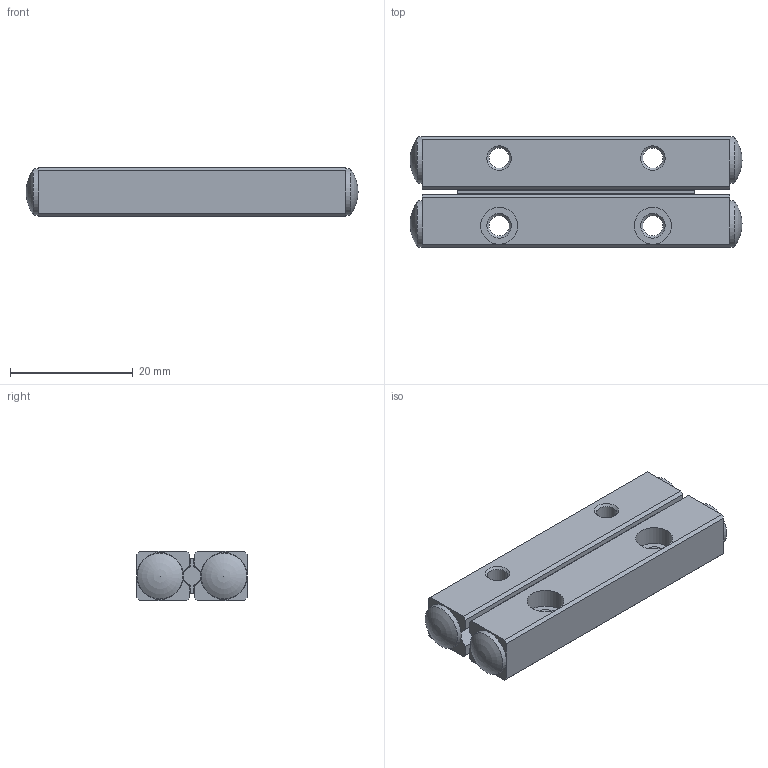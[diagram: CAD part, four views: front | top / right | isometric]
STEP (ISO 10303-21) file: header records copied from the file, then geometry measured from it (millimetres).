
FILE_DESCRIPTION(/* description */ ('STEP AP214'),/* implementation_level */ '2;1');
FILE_NAME(/* name */ 'VRG3M-50-Hx8Z (0)',/* time_stamp */ '2024-09-19T10:08:36+02:00',/* author */ ('License CC BY-ND 4.0'),/* organization */ ('CADENAS'),/* preprocessor_version */ 'ST-DEVELOPER v19.3',/* originating_system */ 'PARTsolutions',/* authorisation */ ' ');
FILE_SCHEMA (('AUTOMOTIVE_DESIGN {1 0 10303 214 3 1 1}'));
Length unit declared in the file: millimetre
Products named in the file (4): VRG3M-50-Hx8Z (0); VRG3M-50x8Z R1; VRG3M-50x8Z8C1; VRG3M-50x8Z R2
Assembly tree (3 placements, depth 2):
  VRG3M-50-Hx8Z (0)
    VRG3M-50x8Z R1
    VRG3M-50x8Z8C1
    VRG3M-50x8Z R2
Bounding box: 54 x 18 x 8 mm (x, y, z)
Volume: 6587 mm3; surface area: 4717.3 mm2
Topology: 3 solids, 3 shells, 218 faces, 600 edges, 388 vertices
Faces by surface type: plane 146, cylinder 40, cone 28, torus 4
Full cylindrical faces by diameter (mm): 3.3 x4, 6 x4
Entity records: 7705 total; most frequent: CARTESIAN_POINT 1214, DIRECTION 1112, ORIENTED_EDGE 1064, EDGE_CURVE 532, AXIS2_PLACEMENT_3D 390, VERTEX_POINT 364, LINE 332, VECTOR 332
